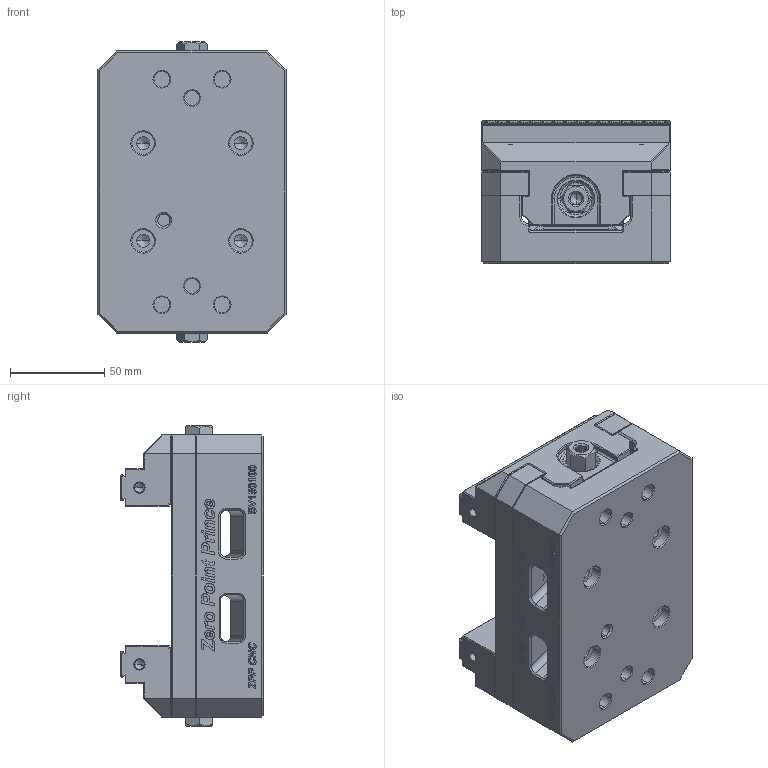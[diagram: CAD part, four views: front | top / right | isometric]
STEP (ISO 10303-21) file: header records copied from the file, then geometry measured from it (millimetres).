
FILE_DESCRIPTION((''),'2;1');
FILE_NAME('HQ150100_ASM','2025-12-13T11:33:19',('XF'),(''),'CREO PARAMETRIC BY PTC INC, 2023073','CREO PARAMETRIC BY PTC INC, 2023073','');
FILE_SCHEMA(('CONFIG_CONTROL_DESIGN'));
Products named in the file (226): HQ150100_1_36; HQ150100_2_19; HQ150100_3_12; HQ150100_4_11; HQ150100_6_81_1; HQ150100_6_81_2; HQ150100_6_81_3; HQ150100_6_81_4; HQ150100_6_81_5; HQ150100_6_81_6; HQ150100_6_81_7; HQ150100_6_81_8; HQ150100_6_81_9; HQ150100_6_81_10; HQ150100_6_81_11; HQ150100_6_81_12; HQ150100_6_81_13; HQ150100_6_81_14; HQ150100_6_81_15; HQ150100_6_81_16; HQ150100_6_81_17; HQ150100_6_81_18; HQ150100_6_81_19; HQ150100_6_81_20; HQ150100_6_81_21; HQ150100_6_81_22; HQ150100_6_81_23; HQ150100_6_81_24; HQ150100_6_81_25; HQ150100_6_81_26; HQ150100_6_81_27; HQ150100_6_81_28; HQ150100_6_81_29; HQ150100_6_81_30; HQ150100_6_81_31; HQ150100_6_81_32; HQ150100_6_81_33; HQ150100_6_81_34; HQ150100_6_81_35; HQ150100_6_81_36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
Assembly tree (235 placements, depth 4):
  HQ150100_ASM
    HQ150100_1_ASM_63_ASM
      HQ150100_1_36
      HQ150100_2_19  x2
      HQ150100_3_12
      HQ150100_4_11
      HQ150100_6_81_ASM  x2
        HQ150100_6_81_1
        HQ150100_6_81_2
        HQ150100_6_81_3
        HQ150100_6_81_4
        HQ150100_6_81_5
        HQ150100_6_81_6
        HQ150100_6_81_7
        HQ150100_6_81_8
        HQ150100_6_81_9
        HQ150100_6_81_10
        HQ150100_6_81_11
        HQ150100_6_81_12
        HQ150100_6_81_13
        HQ150100_6_81_14
        HQ150100_6_81_15
        HQ150100_6_81_16
        HQ150100_6_81_17
        HQ150100_6_81_18
        HQ150100_6_81_19
        HQ150100_6_81_20
        HQ150100_6_81_21
        HQ150100_6_81_22
        HQ150100_6_81_23
        HQ150100_6_81_24
        HQ150100_6_81_25
        HQ150100_6_81_26
        HQ150100_6_81_27
        HQ150100_6_81_28
        HQ150100_6_81_29
        HQ150100_6_81_30
        HQ150100_6_81_31
        HQ150100_6_81_32
        HQ150100_6_81_33
        HQ150100_6_81_34
        HQ150100_6_81_35
        HQ150100_6_81_36
        HQ150100_6_81_37
        HQ150100_6_81_38
        HQ150100_6_81_39
        HQ150100_6_81_40
        HQ150100_6_81_41
        HQ150100_6_81_42
        HQ150100_6_81_43
        HQ150100_6_81_44
        HQ150100_6_81_45
        HQ150100_6_81_46
        HQ150100_6_81_47
        HQ150100_6_81_48
        HQ150100_6_81_49
        HQ150100_6_81_50
        HQ150100_6_81_51
        HQ150100_6_81_52
        HQ150100_6_81_53
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Bounding box: 100 x 76.05 x 160 mm (x, y, z)
Volume: 712968.7 mm3; surface area: 162611.7 mm2
Topology: 448 solids, 474 shells, 6473 faces, 15898 edges, 10434 vertices
Faces by surface type: plane 5017, extrusion 666, cylinder 444, cone 262, torus 64, bspline 20
Entity records: 126862 total; most frequent: CARTESIAN_POINT 30495, ORIENTED_EDGE 19592, DIRECTION 17342, EDGE_CURVE 9822, VECTOR 8050, LINE 7384, VERTEX_POINT 6461, AXIS2_PLACEMENT_3D 4646
